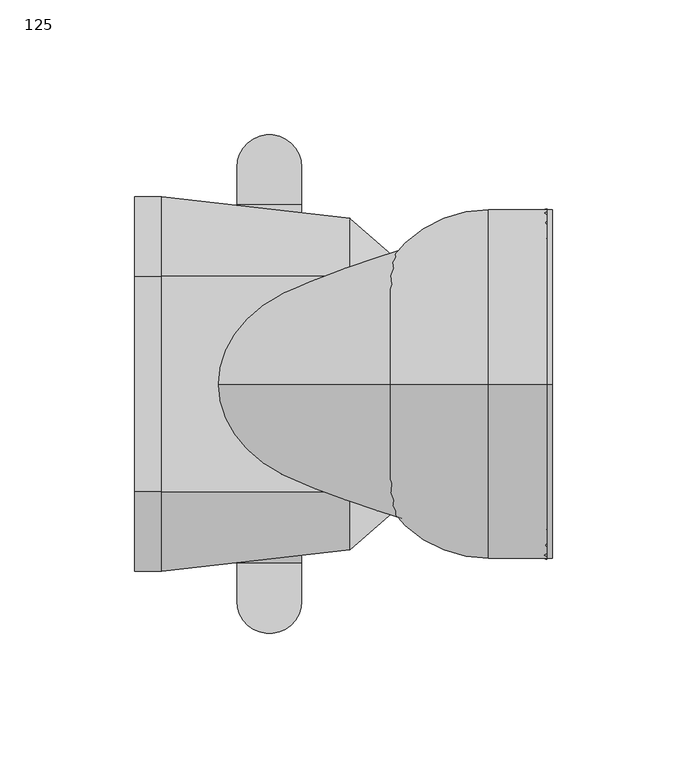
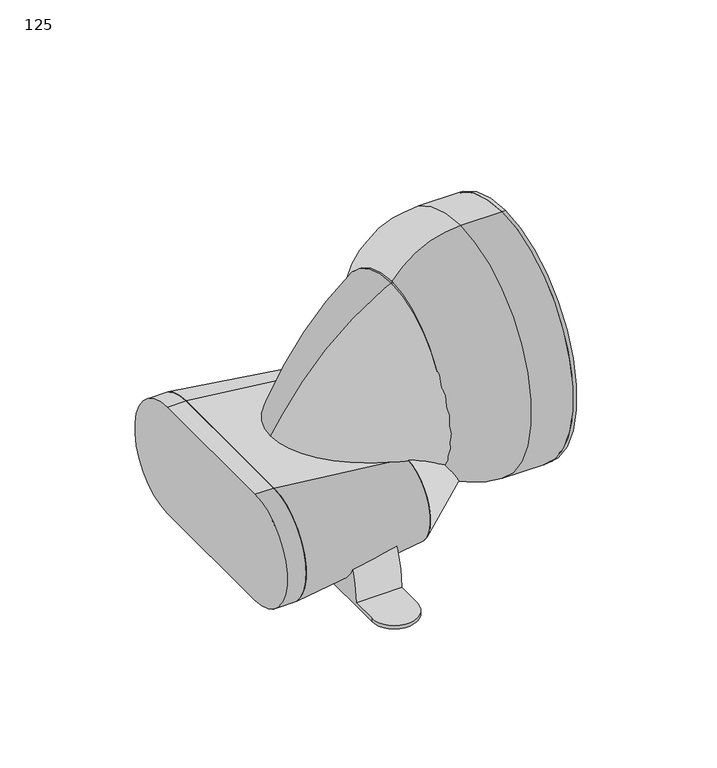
"""IFC4 building model written with IfcOpenShell, lengths in millimetres: duct fitting geometry, Renson_Easyflex_Reducer_Oval to Round : 125."""

from ifc_helpers import new_model, si_unit, point, frame, frame_2d, origin, place, context, project, spatial, polyline, circle_curve, ellipse_curve, trimmed, segment, composite_curve, outline, extrude, source, transform, mapped, element, save
from ifc_brep_helpers import plane_surface, cylinder_surface, revolved_surface, spline_curve, spline_surface, advanced_brep


def duct_fitting_125_ce2bcf2a(model_context):
    return source(origin(), model_context, "Body", "SolidModel", [
        advanced_brep(
        [(12.0, 57.821374, 0.0), (12.0, -57.571374, 0.0), (12.0, -66.3477538, -28.0827455), (12.0, -80.5, -28.0827455), (12.0, -80.5, -30.0), (12.0, -33.2615968, -30.0), (12.0, -33.2615968, -21.5), (12.0, 33.5660891, -21.5), (12.0, 33.5660891, -30.0), (12.0, 80.5, -30.0), (12.0, 80.5, -28.0827455), (12.0, 66.6522462, -28.0827455), (-12.0, 57.821374, 0.0), (-12.0, 66.6522462, -28.0827455), (-12.0, 80.5, -28.0827455), (-12.0, 80.5, -30.0), (-12.0, 33.5660891, -30.0), (-12.0, 33.5660891, -21.5), (-12.0, -33.2615968, -21.5), (-12.0, -33.2615968, -30.0), (-12.0, -80.5, -30.0), (-12.0, -80.5, -28.0827455), (-12.0, -66.3477538, -28.0827455), (-12.0, -57.571374, 0.0)],
        [
            (0, 1),
            (1, 2, circle_curve(frame((12.0, -17.0298429, -28.0827455), z_axis=(1.0, 0.0, 0.0), x_axis=(0.0, 1.0, 0.0)), 49.3179109)),
            (2, 3),
            (3, 4),
            (4, 5),
            (5, 6),
            (6, 7),
            (7, 8),
            (8, 9),
            (9, 10),
            (10, 11),
            (11, 0, circle_curve(frame((12.0, 17.5843352, -28.0827455), z_axis=(1.0, 0.0, 0.0), x_axis=(0.0, 1.0, 0.0)), 49.0679109)),
            (12, 13, circle_curve(frame((-12.0, 17.5843352, -28.0827455), z_axis=(-1.0, 0.0, 0.0), x_axis=(0.0, 1.0, 0.0)), 49.0679109)),
            (13, 14),
            (14, 15),
            (15, 16),
            (16, 17),
            (17, 18),
            (18, 19),
            (19, 20),
            (20, 21),
            (21, 22),
            (22, 23, circle_curve(frame((-12.0, -17.0298429, -28.0827455), z_axis=(-1.0, 0.0, 0.0), x_axis=(0.0, 1.0, 0.0)), 49.3179109)),
            (23, 12),
            (0, 12),
            (23, 1),
            (19, 5),
            (4, 20, circle_curve(frame((0.0, -80.5, -30.0), z_axis=(0.0, 0.0, -1.0), x_axis=(-1.0, 0.0, 0.0)), 12.0)),
            (18, 6),
            (17, 7),
            (16, 8),
            (15, 9, circle_curve(frame((0.0, 80.5, -30.0), z_axis=(0.0, 0.0, -1.0), x_axis=(-1.0, 0.0, 0.0)), 12.0)),
            (22, 2),
            (11, 13),
            (21, 3, circle_curve(frame((0.0, -80.5, -28.0827455), z_axis=(0.0, 0.0, 1.0), x_axis=(-1.0, 0.0, 0.0)), 12.0)),
            (10, 14, circle_curve(frame((0.0, 80.5, -28.0827455), z_axis=(0.0, 0.0, 1.0), x_axis=(-1.0, 0.0, 0.0)), 12.0)),
        ],
        [
            plane_surface(frame((12.0, -57.571374, 0.0), z_axis=(1.0, 0.0, 0.0), x_axis=(0.0, -1.0, 0.0))),
            plane_surface(frame((-12.0, -57.571374, 0.0), z_axis=(-1.0, 0.0, 0.0), x_axis=(0.0, 1.0, 0.0))),
            plane_surface(frame((12.0, 57.821374, 0.0), z_axis=(0.0, 0.0, 1.0), x_axis=(-1.0, 0.0, 0.0))),
            plane_surface(frame((12.0, -66.3477538, -30.0), z_axis=(0.0, 0.0, -1.0), x_axis=(-1.0, 0.0, 0.0))),
            plane_surface(frame((12.0, -33.2615968, -30.0), z_axis=(0.0, 1.0, 0.0), x_axis=(-1.0, 0.0, 0.0))),
            plane_surface(frame((12.0, -33.2615968, -21.5), z_axis=(0.0, 0.0, -1.0), x_axis=(-1.0, 0.0, 0.0))),
            plane_surface(frame((12.0, 33.5660891, -21.5), z_axis=(0.0, -1.0, 0.0), x_axis=(-1.0, 0.0, 0.0))),
            plane_surface(frame((12.0, 33.5660891, -30.0), z_axis=(0.0, 0.0, -1.0), x_axis=(-1.0, 0.0, 0.0))),
            cylinder_surface(frame((-12.0, -17.0298429, -28.0827455), z_axis=(1.0, 0.0, 0.0), x_axis=(0.0, 1.0, 0.0)), 49.3179109),
            cylinder_surface(frame((-12.0, 17.5843352, -28.0827455), z_axis=(1.0, 0.0, 0.0), x_axis=(0.0, 1.0, 0.0)), 49.0679109),
            plane_surface(frame((-12.0, -66.3477538, -28.0827455), z_axis=(0.0, 0.0, 1.0), x_axis=(-1.0, 0.0, 0.0))),
            cylinder_surface(frame((0.0, -80.5, -30.0), z_axis=(0.0, 0.0, 1.0), x_axis=(-1.0, 0.0, 0.0)), 12.0),
            plane_surface(frame((12.0, 66.4022462, -28.0827455), z_axis=(0.0, 0.0, 1.0), x_axis=(0.0, 1.0, 0.0))),
            cylinder_surface(frame((0.0, 80.5, -30.0), z_axis=(0.0, 0.0, 1.0), x_axis=(-1.0, 0.0, 0.0)), 12.0),
        ],
        [
            (0, [[1, 2, 3, 4, 5, 6, 7, 8, 9, 10, 11, 12]]),
            (1, [[13, 14, 15, 16, 17, 18, 19, 20, 21, 22, 23, 24]]),
            (2, [[-1, 25, -24, 26]]),
            (3, [[27, -5, 28, -20]]),
            (4, [[-6, -27, -19, 29]]),
            (5, [[-7, -29, -18, 30]]),
            (6, [[-8, -30, -17, 31]]),
            (7, [[-9, -31, -16, 32]]),
            (8, [[-2, -26, -23, 33]]),
            (9, [[-12, 34, -13, -25]]),
            (10, [[-22, 35, -3, -33]]),
            (11, [[-35, -21, -28, -4]]),
            (12, [[36, -14, -34, -11]]),
            (13, [[-36, -10, -32, -15]]),
        ],
    ),
        advanced_brep(
        [(103.0, 0.0, -21.0), (103.0, 0.0, 109.0), (103.0, 0.0, 44.0), (45.0, 0.0, 44.0), (45.0, 0.0, 90.4716539), (45.0, 0.0, -2.4716539), (81.3639266, 0.0, -21.0), (81.3639266, 0.0, 109.0)],
        [
            (0, 1, circle_curve(frame((103.0, 0.0, 44.0), z_axis=(1.0, 0.0, 0.0), x_axis=(0.0, 0.0, 1.0)), 65.0)),
            (1, 2),
            (2, 0),
            (1, 0, circle_curve(frame((103.0, 0.0, 44.0), z_axis=(1.0, 0.0, 0.0), x_axis=(0.0, 0.0, 1.0)), 65.0)),
            (3, 4),
            (4, 5, circle_curve(frame((45.0, 0.0, 44.0), z_axis=(-1.0, 0.0, 0.0), x_axis=(0.0, 0.0, 1.0)), 46.4716539)),
            (5, 3),
            (5, 4, circle_curve(frame((45.0, 0.0, 44.0), z_axis=(-1.0, 0.0, 0.0), x_axis=(0.0, 0.0, 1.0)), 46.4716539)),
            (6, 7, circle_curve(frame((81.3639266, 0.0, 44.0), z_axis=(1.0, 0.0, 0.0), x_axis=(0.0, 0.0, 1.0)), 65.0)),
            (7, 1),
            (0, 6),
            (7, 6, circle_curve(frame((81.3639266, 0.0, 44.0), z_axis=(1.0, 0.0, 0.0), x_axis=(0.0, 0.0, 1.0)), 65.0)),
            (4, 7, circle_curve(frame((81.3639266, 0.0, 64.0517148), z_axis=(0.0, 1.0, 0.0), x_axis=(1.0, 0.0, 0.0)), 44.9482852)),
            (6, 5, circle_curve(frame((81.3639266, 0.0, 23.9482852), z_axis=(0.0, 1.0, 0.0), x_axis=(1.0, 0.0, 0.0)), 44.9482852)),
        ],
        [
            plane_surface(frame((103.0, 0.0, 44.0), z_axis=(1.0, 0.0, 0.0), x_axis=(0.0, 0.0, 1.0))),
            plane_surface(frame((45.0, 0.0, 44.0), z_axis=(-1.0, 0.0, 0.0), x_axis=(0.0, 0.0, 1.0))),
            cylinder_surface(frame((166.5299668, 0.0, 44.0), z_axis=(-1.0, 0.0, 0.0), x_axis=(0.0, 0.0, 1.0)), 65.0),
            revolved_surface(trimmed(ellipse_curve(frame((81.3639266, 0.0, 64.0517148), z_axis=(0.0, -1.0, 0.0), x_axis=(1.0, 0.0, 0.0)), 44.9482852, 44.9482852), [point((81.3639266, 0.0, 109.0))], [point((45.0, 0.0, 90.4716539))], True, "CARTESIAN"), (166.5299668, 0.0, 44.0), (-1.0, 0.0, 0.0)),
        ],
        [
            (0, [[1, 2, 3]]),
            (0, [[4, -3, -2]]),
            (1, [[5, 6, 7]]),
            (1, [[-7, 8, -5]]),
            (2, [[9, 10, -1, 11]]),
            (2, [[12, -11, -4, -10]]),
            (3, [[-6, 13, -9, 14]]),
            (3, [[-8, -14, -12, -13]]),
        ],
    ),
        advanced_brep(
        [(89.1645179, 0.0, -10.0), (89.1645179, 0.0, 10.0), (30.0, 40.0, -21.5), (30.0, -40.0, -21.5), (30.0, -40.0, 21.5), (30.0, 40.0, 21.5)],
        [
            (0, 1, circle_curve(frame((89.1645179, 0.0, 0.0), z_axis=(1.0, 0.0, 0.0), x_axis=(0.0, 0.0, 1.0)), 10.0)),
            (1, 0, circle_curve(frame((89.1645179, 0.0, 0.0), z_axis=(1.0, 0.0, 0.0), x_axis=(0.0, 0.0, 1.0)), 10.0)),
            (2, 3),
            (3, 4, circle_curve(frame((30.0, -40.0, 0.0), z_axis=(-1.0, 0.0, 0.0), x_axis=(0.0, 0.0, 1.0)), 21.5)),
            (4, 5),
            (5, 2, circle_curve(frame((30.0, 40.0, 0.0), z_axis=(-1.0, 0.0, 0.0), x_axis=(0.0, 0.0, 1.0)), 21.5)),
            (5, 1),
            (0, 2),
            (4, 1),
            (3, 0),
        ],
        [
            plane_surface(frame((89.1645179, 0.0, 0.0), z_axis=(1.0, 0.0, 0.0), x_axis=(0.0, 1.0, 0.0))),
            plane_surface(frame((30.0, 0.0, 0.0), z_axis=(-1.0, 0.0, 0.0), x_axis=(0.0, 1.0, 0.0))),
            spline_surface(2, 1, [[(30.0, 40.0, -21.5), (89.1645179, 0.0, -10.0)], [(30.0, 61.5, -21.5), (89.1645179, 10.0, -10.0)], [(30.0, 61.5, 0.0), (89.1645179, 10.0, 0.0)], [(30.0, 61.5, 21.5), (89.1645179, 10.0, 10.0)], [(30.0, 40.0, 21.5), (89.1645179, 0.0, 10.0)]], [3, 2, 3], [2, 2], [0.0, 1.0, 2.0], [0.0, 1.0], weights=[[1.0, 1.0], [0.7071067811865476, 0.7071067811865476], [1.0, 1.0], [0.7071067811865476, 0.7071067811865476], [1.0, 1.0]]),
            plane_surface(frame((30.0, 0.0, 21.5), z_axis=(0.1908023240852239, 0.0, 0.9816284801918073), x_axis=(0.0, -1.0, 0.0))),
            spline_surface(2, 1, [[(30.0, -40.0, 21.5), (89.1645179, 0.0, 10.0)], [(30.0, -61.5, 21.5), (89.1645179, -10.0, 10.0)], [(30.0, -61.5, 0.0), (89.1645179, -10.0, 0.0)], [(30.0, -61.5, -21.5), (89.1645179, -10.0, -10.0)], [(30.0, -40.0, -21.5), (89.1645179, 0.0, -10.0)]], [3, 2, 3], [2, 2], [0.0, 1.0, 2.0], [0.0, 1.0], weights=[[1.0, 1.0], [0.7071067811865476, 0.7071067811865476], [1.0, 1.0], [0.7071067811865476, 0.7071067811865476], [1.0, 1.0]]),
            plane_surface(frame((30.0, 0.0, -21.5), z_axis=(0.19080232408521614, 0.0, -0.9816284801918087), x_axis=(0.0, 1.0, 0.0))),
        ],
        [
            (0, [[1, 2]]),
            (1, [[3, 4, 5, 6]]),
            (2, [[-6, 7, -1, 8]]),
            (3, [[-5, 9, -7]]),
            (4, [[-4, 10, -2, -9]]),
            (5, [[-3, -8, -10]]),
        ],
    ),
        advanced_brep(
        [(103.0, 0.0, -21.0), (103.0, 0.0, 109.0), (21.9203102, 0.0, -21.9203102), (-21.9203102, 0.0, 21.9203102)],
        [
            (0, 1, spline_curve(3, [(103.0, 0.0, -21.0), (103.0, 8.508480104, -21.0), (103.0, 17.014976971, -19.307785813), (103.0, 32.733869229, -12.796553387), (103.0, 39.946264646, -7.977535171), (103.0, 51.977616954, 4.053653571), (103.0, 56.796573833, 11.265824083), (103.0, 63.307765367, 26.985329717), (103.0, 65.0, 35.492664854), (103.0, 65.0, 52.507335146), (103.0, 63.307765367, 61.014670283), (103.0, 56.796573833, 76.734175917), (103.0, 51.977616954, 83.946346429), (103.0, 39.946264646, 95.977535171), (103.0, 32.733869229, 100.796553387), (103.0, 17.014976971, 107.307785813), (103.0, 8.508480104, 109.0), (103.0, 0.0, 109.0)], [4, 2, 2, 2, 2, 2, 2, 2, 4], [0.0, 0.125, 0.25, 0.375, 0.5, 0.625, 0.75, 0.875, 1.0])),
            (1, 0, spline_curve(3, [(103.0, 0.0, 109.0), (103.0, -8.508480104, 109.0), (103.0, -17.014976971, 107.307785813), (103.0, -32.733869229, 100.796553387), (103.0, -39.946264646, 95.977535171), (103.0, -51.977616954, 83.946346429), (103.0, -56.796573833, 76.734175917), (103.0, -63.307765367, 61.014670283), (103.0, -65.0, 52.507335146), (103.0, -65.0, 35.492664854), (103.0, -63.307765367, 26.985329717), (103.0, -56.796573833, 11.265824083), (103.0, -51.977616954, 4.053653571), (103.0, -39.946264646, -7.977535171), (103.0, -32.733869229, -12.796553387), (103.0, -17.014976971, -19.307785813), (103.0, -8.508480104, -21.0), (103.0, 0.0, -21.0)], [4, 2, 2, 2, 2, 2, 2, 2, 4], [0.0, 0.125, 0.25, 0.375, 0.5, 0.625, 0.75, 0.875, 1.0])),
            (2, 3, spline_curve(3, [(21.9203102, 0.0, -21.9203102), (21.9203102, -4.057890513, -21.9203102), (21.349635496, -8.114835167, -21.349635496), (19.153816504, -15.611537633, -19.153816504), (17.528672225, -19.051295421, -17.528672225), (13.471327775, -24.789324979, -13.471327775), (11.0391276, -27.08759675, -11.0391276), (5.7379516, -30.19293425, -5.7379516), (2.868975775, -31.0, -2.868975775), (-2.868975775, -31.0, 2.868975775), (-5.7379516, -30.19293425, 5.7379516), (-11.0391276, -27.08759675, 11.0391276), (-13.471327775, -24.789324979, 13.471327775), (-17.528672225, -19.051295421, 17.528672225), (-19.153816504, -15.611537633, 19.153816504), (-21.349635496, -8.114835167, 21.349635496), (-21.9203102, -4.057890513, 21.9203102), (-21.9203102, 0.0, 21.9203102)], [4, 2, 2, 2, 2, 2, 2, 2, 4], [0.0, 0.125, 0.25, 0.375, 0.5, 0.625, 0.75, 0.875, 1.0])),
            (3, 2, spline_curve(3, [(-21.9203102, 0.0, 21.9203102), (-21.9203102, 4.057890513, 21.9203102), (-21.349635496, 8.114835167, 21.349635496), (-19.153816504, 15.611537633, 19.153816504), (-17.528672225, 19.051295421, 17.528672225), (-13.471327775, 24.789324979, 13.471327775), (-11.0391276, 27.08759675, 11.0391276), (-5.7379516, 30.19293425, 5.7379516), (-2.868975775, 31.0, 2.868975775), (2.868975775, 31.0, -2.868975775), (5.7379516, 30.19293425, -5.7379516), (11.0391276, 27.08759675, -11.0391276), (13.471327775, 24.789324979, -13.471327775), (17.528672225, 19.051295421, -17.528672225), (19.153816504, 15.611537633, -19.153816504), (21.349635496, 8.114835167, -21.349635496), (21.9203102, 4.057890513, -21.9203102), (21.9203102, 0.0, -21.9203102)], [4, 2, 2, 2, 2, 2, 2, 2, 4], [0.0, 0.125, 0.25, 0.375, 0.5, 0.625, 0.75, 0.875, 1.0])),
            (3, 1, spline_curve(3, [(-21.9203102, 0.0, 21.9203102), (-18.864078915, 0.0, 26.980010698), (-15.787125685, 0.0, 31.904541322), (-9.317625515, 0.0, 41.556066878), (-5.92507863, 0.0, 46.283061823), (1.45781403, 0.0, 55.538786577), (5.448159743, 0.0, 60.067516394), (14.234320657, 0.0, 68.804417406), (19.030135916, 0.0, 73.012588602), (29.460071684, 0.0, 80.904120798), (35.094192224, 0.0, 84.587481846), (47.070163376, 0.0, 91.276451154), (53.412014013, 0.0, 94.282059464), (66.655939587, 0.0, 99.596535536), (73.558014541, 0.0, 101.905403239), (87.877121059, 0.0, 105.898802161), (95.294152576, 0.0, 107.583333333), (103.0, 0.0, 109.0)], [4, 2, 2, 2, 2, 2, 2, 2, 4], [0.0, 0.01630812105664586, 0.03261624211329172, 0.048924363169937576, 0.06523248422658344, 0.08154060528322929, 0.09784872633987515, 0.11415684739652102, 0.13046496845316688])),
            (0, 2, spline_curve(3, [(103.0, 0.0, -21.0), (98.315160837, 0.0, -19.583333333), (94.16351554, 0.0, -18.330714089), (86.72971986, 0.0, -16.084778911), (83.447569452, 0.0, -15.091462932), (77.447927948, 0.0, -13.311546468), (74.730436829, 0.0, -12.524946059), (69.453040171, 0.0, -11.197264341), (66.893134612, 0.0, -10.656183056), (61.540765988, 0.0, -9.992298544), (58.748302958, 0.0, -9.869495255), (52.704087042, 0.0, -10.266234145), (49.452334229, 0.0, -10.78577636), (42.437641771, 0.0, -12.60931584), (38.674702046, 0.0, -13.913313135), (30.660272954, 0.0, -17.326308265), (26.408783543, 0.0, -19.43530607), (21.9203102, 0.0, -21.9203102)], [4, 2, 2, 2, 2, 2, 2, 2, 4], [0.0, 0.016308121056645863, 0.03261624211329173, 0.04892436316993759, 0.06523248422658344, 0.0815406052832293, 0.09784872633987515, 0.11415684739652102, 0.13046496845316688])),
        ],
        [
            plane_surface(frame((103.0, 0.0, 44.0), z_axis=(1.0, 0.0, 0.0), x_axis=(0.0, 1.0, 0.0))),
            plane_surface(frame((0.0, 0.0, 0.0), z_axis=(-0.7071067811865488, 0.0, -0.7071067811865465), x_axis=(0.0, 1.0, 0.0))),
            spline_surface(3, 3, [[(21.9203102, 0.0, -21.9203102), (26.408783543, 0.0, -19.43530607), (30.660272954, 0.0, -17.326308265), (38.674702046, 0.0, -13.913313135), (42.437641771, 0.0, -12.60931584), (49.452334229, 0.0, -10.78577636), (52.704087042, 0.0, -10.266234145), (58.748302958, 0.0, -9.869495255), (61.540765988, 0.0, -9.992298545), (66.893134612, 0.0, -10.656183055), (69.453040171, 0.0, -11.197264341), (74.730436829, 0.0, -12.524946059), (77.447927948, 0.0, -13.311546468), (83.447569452, 0.0, -15.091462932), (86.72971986, 0.0, -16.084778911), (94.16351554, 0.0, -18.330714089), (98.315160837, 0.0, -19.583333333), (103.0, 0.0, -21.0)], [(21.9203102, 4.057890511, -21.9203102), (26.408783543, 4.243331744, -19.43530607), (30.660272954, 4.428772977, -17.326308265), (38.674702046, 4.799655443, -13.913313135), (42.437641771, 4.985096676, -12.60931584), (49.452334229, 5.355979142, -10.78577636), (52.704087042, 5.541420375, -10.266234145), (58.748302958, 5.912302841, -9.869495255), (61.540765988, 6.097744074, -9.992298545), (66.893134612, 6.46862654, -10.656183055), (69.453040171, 6.654067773, -11.197264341), (74.730436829, 7.024950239, -12.524946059), (77.447927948, 7.210391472, -13.311546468), (83.447569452, 7.581273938, -15.091462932), (86.72971986, 7.766715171, -16.084778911), (94.16351554, 8.137597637, -18.330714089), (98.315160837, 8.32303887, -19.583333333), (103.0, 8.508480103, -21.0)], [(21.349635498, 8.114835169, -21.349635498), (25.819470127, 8.485644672, -18.83112514), (30.055649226, 8.856543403, -16.685480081), (38.050000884, 9.598162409, -13.191255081), (41.808070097, 9.969061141, -11.842707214), (48.827620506, 10.710680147, -9.922432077), (52.088934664, 11.081578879, -9.350652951), (58.168883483, 11.823197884, -8.845439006), (60.987443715, 12.194096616, -8.911760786), (66.405827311, 12.935715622, -9.464400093), (69.005853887, 13.306614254, -9.950416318), (74.370318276, 14.04823326, -11.173774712), (77.135079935, 14.419131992, -11.911011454), (83.22896408, 15.160750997, -13.598551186), (86.558259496, 15.531649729, -14.548903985), (94.08168922, 16.273268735, -16.713607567), (98.275846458, 16.644167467, -17.927991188), (103.0, 17.01497697, -19.307785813)], [(19.153816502, 15.611537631, -19.153816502), (23.551905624, 16.324997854, -16.506331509), (27.729299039, 17.038368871, -14.219661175), (35.646204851, 18.465289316, -10.413016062), (39.38582046, 19.178660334, -8.893009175), (46.423682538, 20.605580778, -6.600463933), (49.722096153, 21.318951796, -5.827977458), (55.9392973, 22.745872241, -4.904856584), (58.858159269, 23.459243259, -4.754465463), (64.531019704, 24.886163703, -4.878352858), (67.284814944, 25.599534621, -5.152932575), (72.985042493, 27.026455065, -5.974706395), (75.931151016, 27.739826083, -6.52200592), (82.387988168, 29.166746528, -7.85427064), (85.898543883, 29.880117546, -8.639186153), (93.7668186, 31.30703799, -10.491411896), (98.124514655, 32.020409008, -11.558689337), (103.0, 32.73386923, -12.796553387)], [(17.528672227, 19.051295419, -17.528672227), (21.873682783, 19.921903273, -14.78576957), (26.007476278, 20.792558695, -12.394736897), (33.8672064, 22.533774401, -8.356768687), (37.592952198, 23.404429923, -6.709892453), (44.644648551, 25.14564563, -4.141867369), (47.970290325, 26.016301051, -3.220622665), (54.289250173, 27.757516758, -1.988590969), (57.282430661, 28.62817218, -1.677354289), (63.143285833, 30.369387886, -1.484442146), (66.011336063, 31.240043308, -1.602210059), (71.959511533, 32.981259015, -2.126896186), (75.040235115, 33.851914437, -2.533619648), (81.765452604, 35.593130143, -3.602817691), (85.410265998, 36.463785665, -4.265384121), (93.533796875, 38.205001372, -5.886281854), (98.012556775, 39.075656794, -6.84467381), (103.0, 39.946264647, -7.97753517)], [(13.471327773, 24.789324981, -13.471327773), (17.683769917, 25.922186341, -10.490111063), (21.708941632, 27.055000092, -7.838497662), (29.425570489, 29.320722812, -3.223252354), (33.117218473, 30.453536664, -1.259561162), (40.202750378, 32.719259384, 1.996329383), (43.596943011, 33.852073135, 3.28843291), (50.169512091, 36.117795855, 5.292655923), (53.348026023, 37.250609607, 6.004325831), (59.679093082, 39.516332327, 6.989468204), (62.831270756, 40.649146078, 7.262384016), (69.399855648, 42.914868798, 7.479729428), (72.815664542, 44.04768255, 7.423964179), (80.211531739, 46.31340527, 7.01122876), (84.191270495, 47.446219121, 6.654350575), (92.951991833, 49.711941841, 5.610836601), (97.732932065, 50.844755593, 4.924261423), (103.0, 51.977616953, 4.05365357)], [(11.039127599, 27.087596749, -11.039127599), (15.172132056, 28.3254608, -7.915108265), (19.132051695, 29.563354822, -5.107305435), (26.763111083, 32.039082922, -0.145860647), (30.434001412, 33.276976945, 2.007703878), (37.540237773, 35.752705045, 5.675879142), (40.97518044, 36.990599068, 7.190615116), (47.700042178, 39.466327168, 9.657155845), (50.989781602, 40.704221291, 10.60954806), (57.602202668, 43.179949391, 12.068814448), (60.925374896, 44.417843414, 12.576415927), (67.865040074, 46.893571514, 13.238384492), (71.482314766, 48.131465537, 13.393006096), (79.279841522, 50.607193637, 13.37397778), (83.460511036, 51.845087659, 13.200207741), (92.603250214, 54.32081576, 12.502900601), (97.565375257, 55.558709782, 11.979284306), (103.0, 56.796573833, 11.265824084)], [(5.737951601, 30.192934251, -5.737951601), (9.697747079, 31.572728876, -2.30255995), (13.515745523, 32.952493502, 0.84570801), (20.959834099, 35.712082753, 6.561401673), (24.586173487, 37.09184738, 9.128904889), (31.736618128, 39.85143663, 13.69581969), (35.261126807, 41.231201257, 15.695106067), (42.317344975, 43.990790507, 19.170563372), (45.849234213, 45.370555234, 20.646146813), (53.076016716, 48.130144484, 23.140511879), (56.770419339, 49.509909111, 24.158566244), (64.520688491, 52.269498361, 25.790045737), (68.575773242, 53.649262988, 26.403216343), (77.24954607, 56.408852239, 27.241897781), (81.867816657, 57.788616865, 27.467528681), (91.843085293, 60.548206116, 27.524609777), (97.200027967, 61.927970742, 27.356139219), (103.0, 63.307765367, 26.985329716)], [(2.868975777, 31.0, -2.868975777), (6.735068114, 32.416666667, 0.734863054), (10.476096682, 33.833333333, 4.067368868), (17.819249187, 36.666666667, 10.191432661), (21.421103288, 38.083333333, 12.982906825), (28.595970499, 40.916666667, 18.036144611), (32.168546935, 42.333333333, 20.298043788), (39.404406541, 45.166666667, 24.318842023), (43.067495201, 46.583333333, 26.078376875), (50.626157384, 49.416666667, 29.13200935), (54.522261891, 50.833333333, 30.42689422), (62.710250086, 53.666666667, 32.582842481), (67.002979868, 55.083333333, 33.44418145), (76.15054245, 57.916666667, 34.74727208), (81.005827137, 59.333333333, 35.188893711), (91.431716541, 62.166666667, 35.654353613), (97.002381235, 63.583333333, 35.678106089), (103.0, 65.0, 35.492664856)], [(-2.868975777, 31.0, 2.868975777), (0.809636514, 32.416666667, 6.809841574), (4.397050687, 33.833333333, 10.510864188), (11.537827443, 36.666666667, 17.451321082), (15.091459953, 38.083333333, 20.690839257), (22.314177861, 40.916666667, 26.716865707), (25.98369985, 42.333333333, 29.503238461), (33.578217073, 45.166666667, 34.616080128), (37.503406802, 46.583333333, 36.941913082), (45.727049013, 49.416666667, 41.115928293), (50.024970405, 50.833333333, 42.963323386), (59.090350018, 53.666666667, 46.168662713), (63.856961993, 55.083333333, 47.526331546), (73.952966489, 57.916666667, 49.757800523), (79.281907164, 59.333333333, 50.631730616), (90.608919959, 62.166666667, 51.913734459), (96.606932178, 63.583333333, 52.321893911), (103.0, 65.0, 52.507335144)], [(-5.737951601, 30.192934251, 5.737951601), (-2.153042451, 31.572728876, 9.847264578), (1.357401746, 32.952493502, 13.732525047), (8.397242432, 35.712082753, 21.081352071), (11.926389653, 37.09184738, 24.544841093), (19.173530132, 39.85143663, 31.057190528), (22.891119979, 41.231201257, 34.106176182), (30.665278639, 43.990790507, 39.764358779), (34.721667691, 45.370555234, 42.374143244), (43.27718958, 48.130144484, 47.107425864), (47.776813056, 49.509909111, 49.231651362), (57.279911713, 52.269498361, 52.961459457), (62.284168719, 53.649262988, 54.567296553), (72.853962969, 56.408852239, 57.263174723), (78.419917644, 57.788616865, 58.353095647), (90.197551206, 60.548206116, 60.043478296), (96.409285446, 61.927970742, 60.643860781), (103.0, 63.307765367, 61.014670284)], [(-11.039127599, 27.087596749, 11.039127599), (-7.627427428, 28.3254608, 15.459812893), (-4.258904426, 29.563354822, 19.685538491), (2.593965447, 32.039082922, 27.788614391), (6.078561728, 33.276976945, 31.666042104), (13.369910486, 35.752705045, 39.077131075), (17.177066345, 36.990599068, 42.610667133), (25.282581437, 39.466327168, 49.277766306), (29.581120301, 40.704221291, 52.410741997), (38.751003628, 43.179949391, 58.179123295), (43.6218575, 44.417843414, 60.813801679), (53.935560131, 46.893571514, 65.513120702), (59.377627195, 48.131465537, 67.5775068), (70.823667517, 50.607193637, 71.131094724), (76.827223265, 51.845087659, 72.620416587), (89.437386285, 54.32081576, 75.065187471), (96.043938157, 55.558709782, 76.020715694), (103.0, 56.796573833, 76.734175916)], [(-13.471327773, 24.789324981, 13.471327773), (-10.139065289, 25.922186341, 18.034815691), (-6.835794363, 27.055000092, 22.416730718), (-0.068493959, 29.320722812, 30.866006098), (3.395344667, 30.453536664, 34.933307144), (10.707397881, 32.719259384, 42.756680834), (14.555303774, 33.852073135, 46.512849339), (22.813111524, 36.117795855, 53.642266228), (27.222875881, 37.250609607, 57.015964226), (36.674113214, 39.516332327, 63.258469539), (41.715961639, 40.649146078, 66.12783349), (52.400744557, 42.914868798, 71.271775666), (58.04427732, 44.04768255, 73.546548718), (69.891977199, 46.31340527, 77.493843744), (76.096463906, 47.446219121, 79.166273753), (89.088644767, 49.711941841, 81.957251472), (95.876381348, 50.844755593, 83.075738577), (103.0, 51.977616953, 83.94634643)], [(-17.528672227, 19.051295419, 17.528672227), (-14.328978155, 19.921903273, 22.330474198), (-11.134329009, 20.792558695, 26.972969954), (-4.510129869, 22.533774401, 35.99952243), (-1.080389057, 23.404429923, 40.383638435), (6.265499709, 25.14564563, 48.894877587), (10.18195646, 26.016301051, 53.021904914), (18.693373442, 27.757516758, 60.92351312), (23.288471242, 28.62817218, 64.697644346), (33.209920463, 30.369387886, 71.732379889), (38.535896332, 31.240043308, 74.992427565), (49.841088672, 32.981259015, 80.87840128), (55.819706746, 33.851914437, 83.504132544), (68.338056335, 35.593130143, 88.107890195), (74.877468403, 36.463785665, 90.086008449), (88.506839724, 38.205001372, 93.454369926), (95.596756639, 39.075656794, 94.84467381), (103.0, 39.946264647, 95.97753517)], [(-19.153816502, 15.611537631, 19.153816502), (-16.007200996, 16.324997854, 24.051036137), (-12.856151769, 17.038368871, 28.797894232), (-6.289128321, 18.465289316, 38.055769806), (-2.873257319, 19.178660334, 42.566755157), (4.486465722, 20.605580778, 51.353474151), (8.430150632, 21.318951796, 55.629259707), (17.043326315, 22.745872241, 63.839778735), (21.712742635, 23.459243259, 67.77475552), (31.822186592, 24.886163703, 75.126290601), (37.262417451, 25.599534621, 78.543150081), (48.815557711, 27.026455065, 84.726211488), (54.928790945, 27.739826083, 87.492518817), (67.715520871, 29.166746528, 92.359343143), (74.389190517, 29.880117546, 94.45981048), (88.273817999, 31.30703799, 98.059499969), (95.484798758, 32.020409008, 99.558689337), (103.0, 32.73386923, 100.796553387)], [(-21.349635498, 8.114835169, 21.349635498), (-18.274765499, 8.485644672, 26.375829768), (-15.182501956, 8.856543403, 31.263713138), (-8.692924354, 9.598162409, 40.834008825), (-5.295506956, 9.969061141, 45.516453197), (2.082527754, 10.710680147, 54.675442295), (6.063312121, 11.081578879, 59.1519352), (14.813740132, 11.823197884, 67.780361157), (19.583458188, 12.194096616, 71.932050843), (29.947378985, 12.935715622, 79.712337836), (35.541378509, 13.306614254, 83.340633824), (47.430281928, 14.04823326, 89.925279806), (53.724862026, 14.419131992, 92.88152435), (66.874544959, 15.160750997, 98.10362369), (73.729474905, 15.531649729, 100.369528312), (87.958947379, 16.273268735, 104.281695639), (95.333466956, 16.644167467, 105.927991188), (103.0, 17.01497697, 107.307785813)], [(-21.9203102, 4.057890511, 21.9203102), (-18.864078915, 4.243331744, 26.980010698), (-15.787125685, 4.428772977, 31.904541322), (-9.317625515, 4.799655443, 41.556066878), (-5.925078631, 4.985096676, 46.283061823), (1.457814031, 5.355979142, 55.538786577), (5.448159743, 5.541420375, 60.067516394), (14.234320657, 5.912302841, 68.804417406), (19.030135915, 6.097744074, 73.012588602), (29.460071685, 6.46862654, 80.904120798), (35.094192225, 6.654067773, 84.587481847), (47.070163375, 7.024950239, 91.276451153), (53.412014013, 7.210391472, 94.282059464), (66.655939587, 7.581273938, 99.596535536), (73.558014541, 7.766715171, 101.905403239), (87.877121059, 8.137597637, 105.898802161), (95.294152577, 8.32303887, 107.583333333), (103.0, 8.508480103, 109.0)], [(-21.9203102, 0.0, 21.9203102), (-18.864078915, 0.0, 26.980010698), (-15.787125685, 0.0, 31.904541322), (-9.317625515, 0.0, 41.556066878), (-5.925078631, 0.0, 46.283061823), (1.457814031, 0.0, 55.538786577), (5.448159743, 0.0, 60.067516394), (14.234320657, 0.0, 68.804417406), (19.030135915, 0.0, 73.012588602), (29.460071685, 0.0, 80.904120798), (35.094192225, 0.0, 84.587481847), (47.070163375, 0.0, 91.276451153), (53.412014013, 0.0, 94.282059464), (66.655939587, 0.0, 99.596535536), (73.558014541, 0.0, 101.905403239), (87.877121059, 0.0, 105.898802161), (95.294152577, 0.0, 107.583333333), (103.0, 0.0, 109.0)]], [4, 2, 2, 2, 2, 2, 2, 2, 4], [4, 2, 2, 2, 2, 2, 2, 2, 4], [0.0, 0.125, 0.25, 0.375, 0.5, 0.625, 0.75, 0.875, 1.0], [0.0, 0.01630812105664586, 0.03261624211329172, 0.048924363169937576, 0.06523248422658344, 0.08154060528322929, 0.09784872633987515, 0.11415684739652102, 0.13046496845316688]),
            spline_surface(3, 3, [[(-21.9203102, 0.0, 21.9203102), (-18.864078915, 0.0, 26.980010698), (-15.787125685, 0.0, 31.904541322), (-9.317625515, 0.0, 41.556066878), (-5.925078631, 0.0, 46.283061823), (1.457814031, 0.0, 55.538786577), (5.448159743, 0.0, 60.067516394), (14.234320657, 0.0, 68.804417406), (19.030135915, 0.0, 73.012588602), (29.460071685, 0.0, 80.904120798), (35.094192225, 0.0, 84.587481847), (47.070163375, 0.0, 91.276451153), (53.412014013, 0.0, 94.282059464), (66.655939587, 0.0, 99.596535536), (73.558014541, 0.0, 101.905403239), (87.877121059, 0.0, 105.898802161), (95.294152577, 0.0, 107.583333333), (103.0, 0.0, 109.0)], [(-21.9203102, -4.057890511, 21.9203102), (-18.864078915, -4.243331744, 26.980010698), (-15.787125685, -4.428772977, 31.904541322), (-9.317625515, -4.799655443, 41.556066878), (-5.925078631, -4.985096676, 46.283061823), (1.457814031, -5.355979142, 55.538786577), (5.448159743, -5.541420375, 60.067516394), (14.234320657, -5.912302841, 68.804417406), (19.030135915, -6.097744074, 73.012588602), (29.460071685, -6.46862654, 80.904120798), (35.094192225, -6.654067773, 84.587481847), (47.070163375, -7.024950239, 91.276451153), (53.412014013, -7.210391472, 94.282059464), (66.655939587, -7.581273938, 99.596535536), (73.558014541, -7.766715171, 101.905403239), (87.877121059, -8.137597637, 105.898802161), (95.294152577, -8.32303887, 107.583333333), (103.0, -8.508480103, 109.0)], [(-21.349635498, -8.114835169, 21.349635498), (-18.274765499, -8.485644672, 26.375829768), (-15.182501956, -8.856543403, 31.263713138), (-8.692924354, -9.598162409, 40.834008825), (-5.295506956, -9.969061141, 45.516453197), (2.082527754, -10.710680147, 54.675442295), (6.063312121, -11.081578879, 59.1519352), (14.813740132, -11.823197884, 67.780361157), (19.583458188, -12.194096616, 71.932050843), (29.947378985, -12.935715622, 79.712337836), (35.541378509, -13.306614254, 83.340633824), (47.430281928, -14.04823326, 89.925279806), (53.724862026, -14.419131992, 92.88152435), (66.874544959, -15.160750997, 98.10362369), (73.729474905, -15.531649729, 100.369528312), (87.958947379, -16.273268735, 104.281695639), (95.333466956, -16.644167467, 105.927991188), (103.0, -17.01497697, 107.307785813)], [(-19.153816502, -15.611537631, 19.153816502), (-16.007200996, -16.324997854, 24.051036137), (-12.856151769, -17.038368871, 28.797894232), (-6.289128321, -18.465289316, 38.055769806), (-2.873257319, -19.178660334, 42.566755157), (4.486465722, -20.605580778, 51.353474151), (8.430150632, -21.318951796, 55.629259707), (17.043326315, -22.745872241, 63.839778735), (21.712742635, -23.459243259, 67.77475552), (31.822186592, -24.886163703, 75.126290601), (37.262417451, -25.599534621, 78.543150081), (48.815557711, -27.026455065, 84.726211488), (54.928790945, -27.739826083, 87.492518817), (67.715520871, -29.166746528, 92.359343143), (74.389190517, -29.880117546, 94.45981048), (88.273817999, -31.30703799, 98.059499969), (95.484798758, -32.020409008, 99.558689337), (103.0, -32.73386923, 100.796553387)], [(-17.528672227, -19.051295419, 17.528672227), (-14.328978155, -19.921903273, 22.330474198), (-11.134329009, -20.792558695, 26.972969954), (-4.510129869, -22.533774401, 35.99952243), (-1.080389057, -23.404429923, 40.383638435), (6.265499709, -25.14564563, 48.894877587), (10.18195646, -26.016301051, 53.021904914), (18.693373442, -27.757516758, 60.92351312), (23.288471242, -28.62817218, 64.697644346), (33.209920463, -30.369387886, 71.732379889), (38.535896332, -31.240043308, 74.992427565), (49.841088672, -32.981259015, 80.87840128), (55.819706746, -33.851914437, 83.504132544), (68.338056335, -35.593130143, 88.107890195), (74.877468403, -36.463785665, 90.086008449), (88.506839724, -38.205001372, 93.454369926), (95.596756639, -39.075656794, 94.84467381), (103.0, -39.946264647, 95.97753517)], [(-13.471327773, -24.789324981, 13.471327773), (-10.139065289, -25.922186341, 18.034815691), (-6.835794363, -27.055000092, 22.416730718), (-0.068493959, -29.320722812, 30.866006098), (3.395344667, -30.453536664, 34.933307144), (10.707397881, -32.719259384, 42.756680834), (14.555303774, -33.852073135, 46.512849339), (22.813111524, -36.117795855, 53.642266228), (27.222875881, -37.250609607, 57.015964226), (36.674113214, -39.516332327, 63.258469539), (41.715961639, -40.649146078, 66.12783349), (52.400744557, -42.914868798, 71.271775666), (58.04427732, -44.04768255, 73.546548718), (69.891977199, -46.31340527, 77.493843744), (76.096463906, -47.446219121, 79.166273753), (89.088644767, -49.711941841, 81.957251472), (95.876381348, -50.844755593, 83.075738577), (103.0, -51.977616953, 83.94634643)], [(-11.039127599, -27.087596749, 11.039127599), (-7.627427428, -28.3254608, 15.459812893), (-4.258904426, -29.563354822, 19.685538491), (2.593965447, -32.039082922, 27.788614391), (6.078561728, -33.276976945, 31.666042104), (13.369910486, -35.752705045, 39.077131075), (17.177066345, -36.990599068, 42.610667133), (25.282581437, -39.466327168, 49.277766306), (29.581120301, -40.704221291, 52.410741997), (38.751003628, -43.179949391, 58.179123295), (43.6218575, -44.417843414, 60.813801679), (53.935560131, -46.893571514, 65.513120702), (59.377627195, -48.131465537, 67.5775068), (70.823667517, -50.607193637, 71.131094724), (76.827223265, -51.845087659, 72.620416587), (89.437386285, -54.32081576, 75.065187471), (96.043938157, -55.558709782, 76.020715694), (103.0, -56.796573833, 76.734175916)], [(-5.737951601, -30.192934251, 5.737951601), (-2.153042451, -31.572728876, 9.847264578), (1.357401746, -32.952493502, 13.732525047), (8.397242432, -35.712082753, 21.081352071), (11.926389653, -37.09184738, 24.544841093), (19.173530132, -39.85143663, 31.057190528), (22.891119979, -41.231201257, 34.106176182), (30.665278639, -43.990790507, 39.764358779), (34.721667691, -45.370555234, 42.374143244), (43.27718958, -48.130144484, 47.107425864), (47.776813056, -49.509909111, 49.231651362), (57.279911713, -52.269498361, 52.961459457), (62.284168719, -53.649262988, 54.567296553), (72.853962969, -56.408852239, 57.263174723), (78.419917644, -57.788616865, 58.353095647), (90.197551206, -60.548206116, 60.043478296), (96.409285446, -61.927970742, 60.643860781), (103.0, -63.307765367, 61.014670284)], [(-2.868975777, -31.0, 2.868975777), (0.809636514, -32.416666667, 6.809841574), (4.397050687, -33.833333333, 10.510864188), (11.537827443, -36.666666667, 17.451321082), (15.091459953, -38.083333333, 20.690839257), (22.314177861, -40.916666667, 26.716865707), (25.98369985, -42.333333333, 29.503238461), (33.578217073, -45.166666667, 34.616080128), (37.503406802, -46.583333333, 36.941913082), (45.727049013, -49.416666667, 41.115928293), (50.024970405, -50.833333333, 42.963323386), (59.090350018, -53.666666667, 46.168662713), (63.856961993, -55.083333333, 47.526331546), (73.952966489, -57.916666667, 49.757800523), (79.281907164, -59.333333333, 50.631730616), (90.608919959, -62.166666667, 51.913734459), (96.606932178, -63.583333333, 52.321893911), (103.0, -65.0, 52.507335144)], [(2.868975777, -31.0, -2.868975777), (6.735068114, -32.416666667, 0.734863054), (10.476096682, -33.833333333, 4.067368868), (17.819249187, -36.666666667, 10.191432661), (21.421103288, -38.083333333, 12.982906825), (28.595970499, -40.916666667, 18.036144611), (32.168546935, -42.333333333, 20.298043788), (39.404406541, -45.166666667, 24.318842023), (43.067495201, -46.583333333, 26.078376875), (50.626157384, -49.416666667, 29.13200935), (54.522261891, -50.833333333, 30.42689422), (62.710250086, -53.666666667, 32.582842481), (67.002979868, -55.083333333, 33.44418145), (76.15054245, -57.916666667, 34.74727208), (81.005827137, -59.333333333, 35.188893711), (91.431716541, -62.166666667, 35.654353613), (97.002381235, -63.583333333, 35.678106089), (103.0, -65.0, 35.492664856)], [(5.737951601, -30.192934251, -5.737951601), (9.697747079, -31.572728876, -2.30255995), (13.515745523, -32.952493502, 0.84570801), (20.959834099, -35.712082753, 6.561401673), (24.586173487, -37.09184738, 9.128904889), (31.736618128, -39.85143663, 13.69581969), (35.261126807, -41.231201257, 15.695106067), (42.317344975, -43.990790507, 19.170563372), (45.849234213, -45.370555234, 20.646146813), (53.076016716, -48.130144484, 23.140511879), (56.770419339, -49.509909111, 24.158566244), (64.520688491, -52.269498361, 25.790045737), (68.575773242, -53.649262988, 26.403216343), (77.24954607, -56.408852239, 27.241897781), (81.867816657, -57.788616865, 27.467528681), (91.843085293, -60.548206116, 27.524609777), (97.200027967, -61.927970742, 27.356139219), (103.0, -63.307765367, 26.985329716)], [(11.039127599, -27.087596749, -11.039127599), (15.172132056, -28.3254608, -7.915108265), (19.132051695, -29.563354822, -5.107305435), (26.763111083, -32.039082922, -0.145860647), (30.434001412, -33.276976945, 2.007703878), (37.540237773, -35.752705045, 5.675879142), (40.97518044, -36.990599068, 7.190615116), (47.700042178, -39.466327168, 9.657155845), (50.989781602, -40.704221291, 10.60954806), (57.602202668, -43.179949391, 12.068814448), (60.925374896, -44.417843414, 12.576415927), (67.865040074, -46.893571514, 13.238384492), (71.482314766, -48.131465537, 13.393006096), (79.279841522, -50.607193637, 13.37397778), (83.460511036, -51.845087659, 13.200207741), (92.603250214, -54.32081576, 12.502900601), (97.565375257, -55.558709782, 11.979284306), (103.0, -56.796573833, 11.265824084)], [(13.471327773, -24.789324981, -13.471327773), (17.683769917, -25.922186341, -10.490111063), (21.708941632, -27.055000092, -7.838497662), (29.425570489, -29.320722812, -3.223252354), (33.117218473, -30.453536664, -1.259561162), (40.202750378, -32.719259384, 1.996329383), (43.596943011, -33.852073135, 3.28843291), (50.169512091, -36.117795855, 5.292655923), (53.348026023, -37.250609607, 6.004325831), (59.679093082, -39.516332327, 6.989468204), (62.831270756, -40.649146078, 7.262384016), (69.399855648, -42.914868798, 7.479729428), (72.815664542, -44.04768255, 7.423964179), (80.211531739, -46.31340527, 7.01122876), (84.191270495, -47.446219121, 6.654350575), (92.951991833, -49.711941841, 5.610836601), (97.732932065, -50.844755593, 4.924261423), (103.0, -51.977616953, 4.05365357)], [(17.528672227, -19.051295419, -17.528672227), (21.873682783, -19.921903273, -14.78576957), (26.007476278, -20.792558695, -12.394736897), (33.8672064, -22.533774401, -8.356768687), (37.592952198, -23.404429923, -6.709892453), (44.644648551, -25.14564563, -4.141867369), (47.970290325, -26.016301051, -3.220622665), (54.289250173, -27.757516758, -1.988590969), (57.282430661, -28.62817218, -1.677354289), (63.143285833, -30.369387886, -1.484442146), (66.011336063, -31.240043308, -1.602210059), (71.959511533, -32.981259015, -2.126896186), (75.040235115, -33.851914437, -2.533619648), (81.765452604, -35.593130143, -3.602817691), (85.410265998, -36.463785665, -4.265384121), (93.533796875, -38.205001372, -5.886281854), (98.012556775, -39.075656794, -6.84467381), (103.0, -39.946264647, -7.97753517)], [(19.153816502, -15.611537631, -19.153816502), (23.551905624, -16.324997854, -16.506331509), (27.729299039, -17.038368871, -14.219661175), (35.646204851, -18.465289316, -10.413016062), (39.38582046, -19.178660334, -8.893009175), (46.423682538, -20.605580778, -6.600463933), (49.722096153, -21.318951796, -5.827977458), (55.9392973, -22.745872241, -4.904856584), (58.858159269, -23.459243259, -4.754465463), (64.531019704, -24.886163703, -4.878352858), (67.284814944, -25.599534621, -5.152932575), (72.985042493, -27.026455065, -5.974706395), (75.931151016, -27.739826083, -6.52200592), (82.387988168, -29.166746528, -7.85427064), (85.898543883, -29.880117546, -8.639186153), (93.7668186, -31.30703799, -10.491411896), (98.124514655, -32.020409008, -11.558689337), (103.0, -32.73386923, -12.796553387)], [(21.349635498, -8.114835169, -21.349635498), (25.819470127, -8.485644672, -18.83112514), (30.055649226, -8.856543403, -16.685480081), (38.050000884, -9.598162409, -13.191255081), (41.808070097, -9.969061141, -11.842707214), (48.827620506, -10.710680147, -9.922432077), (52.088934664, -11.081578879, -9.350652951), (58.168883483, -11.823197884, -8.845439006), (60.987443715, -12.194096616, -8.911760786), (66.405827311, -12.935715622, -9.464400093), (69.005853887, -13.306614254, -9.950416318), (74.370318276, -14.04823326, -11.173774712), (77.135079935, -14.419131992, -11.911011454), (83.22896408, -15.160750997, -13.598551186), (86.558259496, -15.531649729, -14.548903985), (94.08168922, -16.273268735, -16.713607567), (98.275846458, -16.644167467, -17.927991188), (103.0, -17.01497697, -19.307785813)], [(21.9203102, -4.057890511, -21.9203102), (26.408783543, -4.243331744, -19.43530607), (30.660272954, -4.428772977, -17.326308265), (38.674702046, -4.799655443, -13.913313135), (42.437641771, -4.985096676, -12.60931584), (49.452334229, -5.355979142, -10.78577636), (52.704087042, -5.541420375, -10.266234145), (58.748302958, -5.912302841, -9.869495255), (61.540765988, -6.097744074, -9.992298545), (66.893134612, -6.46862654, -10.656183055), (69.453040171, -6.654067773, -11.197264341), (74.730436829, -7.024950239, -12.524946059), (77.447927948, -7.210391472, -13.311546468), (83.447569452, -7.581273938, -15.091462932), (86.72971986, -7.766715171, -16.084778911), (94.16351554, -8.137597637, -18.330714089), (98.315160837, -8.32303887, -19.583333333), (103.0, -8.508480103, -21.0)], [(21.9203102, 0.0, -21.9203102), (26.408783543, 0.0, -19.43530607), (30.660272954, 0.0, -17.326308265), (38.674702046, 0.0, -13.913313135), (42.437641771, 0.0, -12.60931584), (49.452334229, 0.0, -10.78577636), (52.704087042, 0.0, -10.266234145), (58.748302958, 0.0, -9.869495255), (61.540765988, 0.0, -9.992298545), (66.893134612, 0.0, -10.656183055), (69.453040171, 0.0, -11.197264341), (74.730436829, 0.0, -12.524946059), (77.447927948, 0.0, -13.311546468), (83.447569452, 0.0, -15.091462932), (86.72971986, 0.0, -16.084778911), (94.16351554, 0.0, -18.330714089), (98.315160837, 0.0, -19.583333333), (103.0, 0.0, -21.0)]], [4, 2, 2, 2, 2, 2, 2, 2, 4], [4, 2, 2, 2, 2, 2, 2, 2, 4], [0.0, 0.125, 0.25, 0.375, 0.5, 0.625, 0.75, 0.875, 1.0], [0.0, 0.01630812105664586, 0.03261624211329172, 0.048924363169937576, 0.06523248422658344, 0.08154060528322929, 0.09784872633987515, 0.11415684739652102, 0.13046496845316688]),
        ],
        [
            (0, [[1, 2]]),
            (1, [[3, 4]]),
            (2, [[-4, 5, -1, 6]]),
            (3, [[-3, -6, -2, -5]]),
        ],
    ),
        advanced_brep(
        [(30.0, 40.0, 21.5), (30.0, -40.0, 21.5), (30.0, -40.0, -21.5), (30.0, 40.0, -21.5), (-40.0, 40.0, 29.5), (-40.0, 40.0, -29.5), (-40.0, -40.0, -29.5), (-40.0, -40.0, 29.5)],
        [
            (0, 1),
            (1, 2, circle_curve(frame((30.0, -40.0, 0.0), z_axis=(1.0, 0.0, 0.0), x_axis=(0.0, 0.0, 1.0)), 21.5)),
            (2, 3),
            (3, 0, circle_curve(frame((30.0, 40.0, 0.0), z_axis=(1.0, 0.0, 0.0), x_axis=(0.0, 0.0, -1.0)), 21.5)),
            (4, 5, circle_curve(frame((-40.0, 40.0, 0.0), z_axis=(-1.0, 0.0, 0.0), x_axis=(0.0, 0.0, -1.0)), 29.5)),
            (5, 6),
            (6, 7, circle_curve(frame((-40.0, -40.0, 0.0), z_axis=(-1.0, 0.0, 0.0), x_axis=(0.0, 0.0, 1.0)), 29.5)),
            (7, 4),
            (7, 1),
            (0, 4),
            (6, 2),
            (5, 3),
        ],
        [
            plane_surface(frame((30.0, 0.0, 0.0), z_axis=(1.0, 0.0, 0.0), x_axis=(0.0, -1.0, 0.0))),
            plane_surface(frame((-40.0, 0.0, 0.0), z_axis=(-1.0, 0.0, 0.0), x_axis=(0.0, -1.0, 0.0))),
            plane_surface(frame((-40.0, 0.0, 29.5), z_axis=(0.11354659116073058, 0.0, 0.9935326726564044), x_axis=(0.0, -1.0, 0.0))),
            revolved_surface(polyline([(30.0, -40.0, 21.5), (-40.0, -40.0, 29.5)]), (218.125, -40.0, 0.0), (-1.0, 0.0, 0.0)),
            plane_surface(frame((-40.0, 0.0, -29.5), z_axis=(0.11354659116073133, 0.0, -0.9935326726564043), x_axis=(0.0, 1.0, 0.0))),
            revolved_surface(polyline([(30.0, 40.0, -21.5), (-40.0, 40.0, -29.5)]), (218.125, 40.0, 0.0), (-1.0, 0.0, 0.0)),
        ],
        [
            (0, [[1, 2, 3, 4]]),
            (1, [[5, 6, 7, 8]]),
            (2, [[-8, 9, -1, 10]]),
            (3, [[-7, 11, -2, -9]]),
            (4, [[-6, 12, -3, -11]]),
            (5, [[-5, -10, -4, -12]]),
        ],
    ),
        extrude(outline(composite_curve([segment(trimmed(circle_curve(frame_2d((0.0, 44.0)), 65.0), [point((0.0, 109.0))], [point((0.0, -21.0))], False, "CARTESIAN"), True, "CONTINUOUS"), segment(trimmed(circle_curve(frame_2d((0.0, 44.0)), 65.0), [point((0.0, -21.0))], [point((0.0, 109.0))], False, "CARTESIAN"), True, "CONTINUOUS")], self_intersect=False), holes=[composite_curve([segment(trimmed(circle_curve(frame_2d((0.0, 44.0)), 62.5), [point((0.0, 106.5))], [point((0.0, -18.5))], True, "CARTESIAN"), True, "CONTINUOUS"), segment(trimmed(circle_curve(frame_2d((0.0, 44.0)), 62.5), [point((0.0, -18.5))], [point((0.0, 106.5))], True, "CARTESIAN"), True, "CONTINUOUS")], self_intersect=False)]), frame((103.0, 0.0, 0.0), z_axis=(1.0, 0.0, 0.0), x_axis=(0.0, 1.0, 0.0)), (0.0, 0.0, 1.0), 2.0),
        extrude(outline(composite_curve([segment(trimmed(circle_curve(frame_2d((40.0, 0.0)), 29.5), [point((40.0, 29.5))], [point((40.0, -29.5))], False, "CARTESIAN"), True, "CONTINUOUS"), segment(polyline([(40.0, -29.5), (-40.0, -29.5)]), True, "CONTINUOUS"), segment(trimmed(circle_curve(frame_2d((-40.0, 0.0)), 29.5), [point((-40.0, -29.5))], [point((-40.0, 29.5))], False, "CARTESIAN"), True, "CONTINUOUS"), segment(polyline([(-40.0, 29.5), (40.0, 29.5)]), True, "CONTINUOUS")], self_intersect=False)), frame((-50.0, 0.0, 0.0), z_axis=(1.0, 0.0, 0.0), x_axis=(0.0, 1.0, 0.0)), (0.0, 0.0, 1.0), 10.0),
    ])


if __name__ == "__main__":
    model = new_model("IFC4")
    model_context = context("Model", 3, world=origin())
    ifc_project = project(units=[si_unit("LENGTHUNIT", "METRE", prefix="MILLI")], contexts=[model_context])
    site = spatial("IfcSite", under=ifc_project)
    building = spatial("IfcBuilding", under=site)
    placement = place(None, origin())
    duct_fitting_125_shape = duct_fitting_125_ce2bcf2a(model_context)
    element("IfcDuctFitting", 1, ObjectType="Renson_Easyflex_Reducer_Oval to Round : 125", at=placement, inside=building, context=model_context, shape_type="MappedRepresentation", body=[
        mapped(duct_fitting_125_shape, transform((0.0, 0.0, 0.0), x_axis=(1.0, 0.0, 0.0), y_axis=(0.0, 1.0, 0.0), z_axis=(0.0, 0.0, 1.0))),
    ])
    save(model, "model.ifc")
